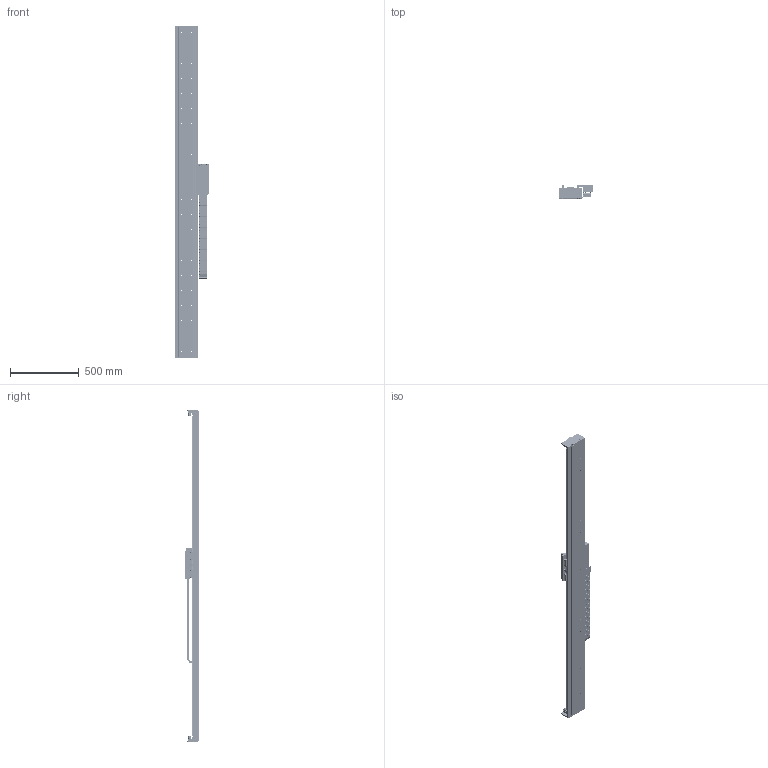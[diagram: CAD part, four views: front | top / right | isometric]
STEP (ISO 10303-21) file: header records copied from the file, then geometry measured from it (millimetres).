
FILE_DESCRIPTION (( 'STEP AP203' ), '1' );
FILE_NAME ('STF35120S-xC1B-Axx.STEP', '2007-09-17T21:15:22', ( 'Yaskawa' ), ( 'Yaskawa' ), 'SwSTEP 2.0', 'SolidWorks 2007', '' );
FILE_SCHEMA (( 'CONFIG_CONTROL_DESIGN' ));
Length unit declared in the file: millimetre
Products named in the file (62): STF2035-007 End Stop; SSR15W Block; STF2035-001C F35-120 Carriage; STCM-R1; STF2035-002A-R2 F2035 Carriage Horn; SGLFW-35120AP; STCM-005-R1 Cable Assembly Cover; STCM-006-R1 Upper E-chain Bracket; Serial Converter; STF2035-006 Endplate; STCM-007 Lower E-Chain Bracket; 07.50.028.0_106; 07.50.028.0_117; 07.50.028.0_100; 07.50.028.0_107; 07.50.028.0_108; 07.50.028.0_114; 07.50.028.0_115; 07.50.028.0_123; 07.50.028.0_122; STF35120S-xC1B-Axx; STF35BM Base_STF35120-018; STF35120 Base_STF35BM-018; SGLFM-35756AC; End Stop with Bumper; Bumper-Medium; B18.3.1M - 6 x 1.0 x 16 Hex SHCS -- 16NHX_B18.3.1M - 6 x 1.0 x 16 Hex SHCS -- 16NHX; Mult-SR15+580LY_018; STF35120 Complete Carriage; STF35-120 SSR15W Carriage-R2; STF2035-005-R2 Cable Router; STF2035-003 Renishaw Encoder Mount; RGH22B; STF2035-004 Flag; STCM-001-R2 Cable Bracket; STCM-002-R2 Cable Assembly Front; STCM-003 Cable Assembly Bottom; STCM-004 Cable Assembly Side; B18.3.5M - 3 x 0.5 x 6 Socket FCHS  -- 6N_B18.3.5M - 3 x 0.5 x 6 Socket FCHS  -- 6N; B18.3.1M - 4 x 0.7 x 12 Hex SHCS -- 12CHX_B18.3.1M - 4 x 0.7 x 12 Hex SHCS -- 12CHX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
Assembly tree (141 placements, depth 4):
  STF35120S-xC1B-Axx
    STF35BM Base_STF35120-018
      STF35120 Base_STF35BM-018
      Mult-SR15+580LY_018  x2
      End Stop with Bumper  x4
        STF2035-007 End Stop
        B18.3.1M - 6 x 1.0 x 16 Hex SHCS -- 16NHX_B18.3.1M - 6 x 1.0 x 16 Hex SHCS -- 16NHX
        Bumper-Medium
      SGLFM-35756AC  x3
    STF2035-006 Endplate  x2
    STF35120 Complete Carriage
      B18.3.1M - 4 x 0.7 x 12 Hex SHCS -- 12CHX_B18.3.1M - 4 x 0.7 x 12 Hex SHCS -- 12CHX  x18
      B18.3.1M - 6 x 1.0 x 25 Hex SHCS -- 25CHX_B18.3.1M - 6 x 1.0 x 25 Hex SHCS -- 25CHX  x6
      B18.3.4M - 3 x 0.5 x 12 SBHCS --N_B18.3.4M - 3 x 0.5 x 12 SBHCS --N  x3
      STF35-120 SSR15W Carriage-R2
        SSR15W Block  x4
        STF2035-004 Flag
        STF2035-003 Renishaw Encoder Mount
        RGH22B
        SGLFW-35120AP
        STF2035-005-R2 Cable Router
        STF2035-001C F35-120 Carriage
        STF2035-002A-R2 F2035 Carriage Horn  x2
      STCM-R1
        B18.3.5M - 3 x 0.5 x 6 Socket FCHS  -- 6N_B18.3.5M - 3 x 0.5 x 6 Socket FCHS  -- 6N  x6
        STCM-004 Cable Assembly Side
        B18.3.4M - 3 x 0.5 x 12 SBHCS --N_B18.3.4M - 3 x 0.5 x 12 SBHCS --N  x4
        STCM-006-R1 Upper E-chain Bracket
        STCM-002-R2 Cable Assembly Front
        STCM-001-R2 Cable Bracket
        STCM-005-R1 Cable Assembly Cover
        STCM-003 Cable Assembly Bottom
        Serial Converter
    STCM-007 Lower E-Chain Bracket
    STF20120S
      07.50.028.0_106
      07.50.028.0_110
      07.50.028.0_97
      07.50.028.0_108
      07.50.028.0_105  x18
      07.50.028.0_111  x20
      07.50.028.0_103
      07.50.028.0_112
      07.50.028.0_119
      07.50.028.0_122
      07.50.028.0_109
      07.50.028.0_116
      07.50.028.0_104
      07.50.028.0_123
      07.50.028.0_114
      07.50.028.0_96
      07.50.028.0_121
      07.50.028.0_101
      07.50.028.0_115
      07.50.028.0_120
      07.50.028.0_107
      07.50.028.0_99
      07.50.028.0_98
      07.50.028.0_100
      07.50.028.0_117
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Bounding box: 251.03 x 94.7 x 2409.05 mm (x, y, z)
Volume: 10900670.3 mm3; surface area: 3062281.5 mm2
Topology: 203 solids, 203 shells, 9884 faces, 25201 edges, 15916 vertices
Faces by surface type: plane 5045, cylinder 3799, cone 896, torus 86, bspline 44, sphere 14
Entity records: 156292 total; most frequent: DIRECTION 26598, CARTESIAN_POINT 25601, ORIENTED_EDGE 24152, EDGE_CURVE 12076, AXIS2_PLACEMENT_3D 9529, VERTEX_POINT 7871, VECTOR 7540, LINE 7540
